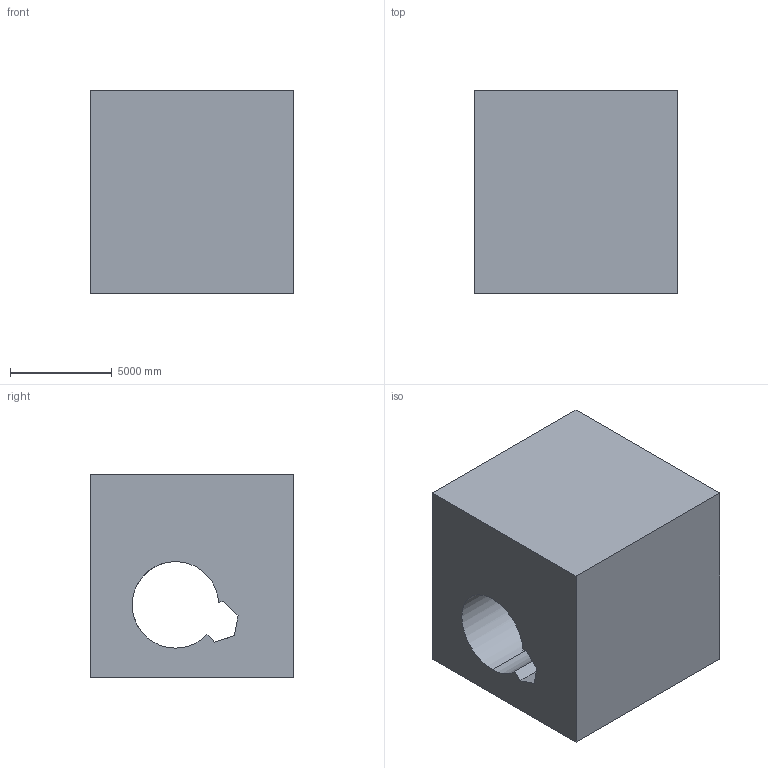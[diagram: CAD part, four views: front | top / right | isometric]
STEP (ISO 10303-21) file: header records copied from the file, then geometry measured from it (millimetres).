
FILE_DESCRIPTION (( 'STEP AP203' ), '1' );
FILE_NAME ('1295.STEP', '2022-08-18T13:36:43', ( 'user' ), ( '' ), 'SwSTEP 2.0', 'SolidWorks 2021', '' );
FILE_SCHEMA (( 'CONFIG_CONTROL_DESIGN' ));
Length unit declared in the file: centimetre
Products named in the file (1): 1295
Bounding box: 10000 x 10000 x 10000 mm (x, y, z)
Volume: 813353622365.4 mm3; surface area: 707169642.3 mm2
Topology: 1 solids, 1 shells, 17 faces, 48 edges, 32 vertices
Faces by surface type: plane 13, cylinder 4
Entity records: 793 total; most frequent: CARTESIAN_POINT 270, ORIENTED_EDGE 96, DIRECTION 88, EDGE_CURVE 48, LINE 36, VECTOR 36, VERTEX_POINT 32, AXIS2_PLACEMENT_3D 26
